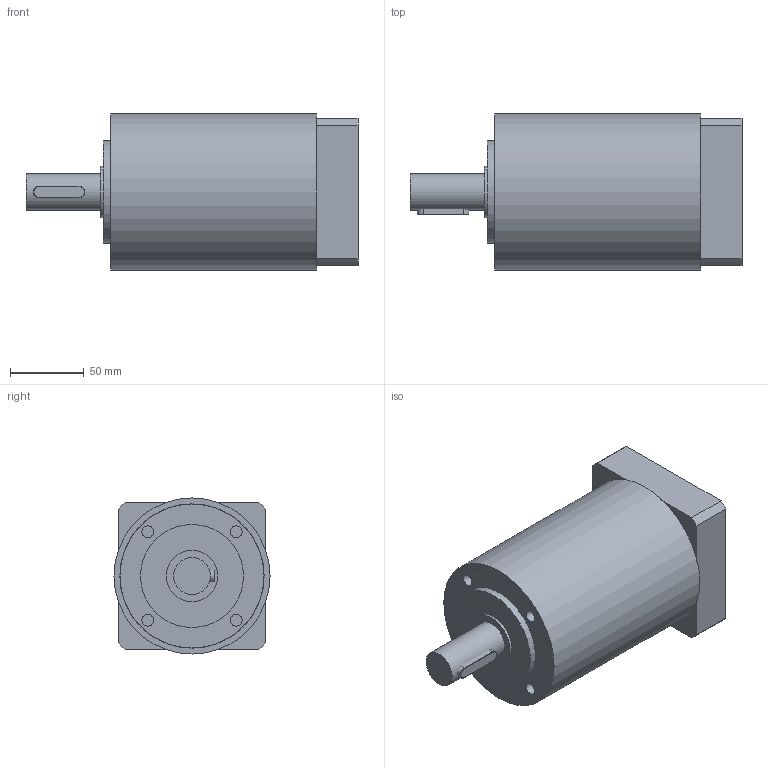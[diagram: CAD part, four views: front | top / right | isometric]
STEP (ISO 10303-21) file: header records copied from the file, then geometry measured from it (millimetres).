
FILE_DESCRIPTION(/* description */ (''),/* implementation_level */ '2;1');
FILE_NAME(/* name */ 'X_MP 105 2 50C1 CD 14 KE.stp',/* time_stamp */ '2019-07-05T12:22:31+02:00',/* author */ (''),/* organization */ (''),/* preprocessor_version */ 'ST-DEVELOPER v16',/* originating_system */ 'SIEMENS PLM Software NX 11.0',/* authorisation */ '');
FILE_SCHEMA (('AP203_CONFIGURATION_CONTROLLED_3D_DESIGN_OF_MECHANICAL_PARTS_AND_ASSEMBLIES_MIM_LF { 1 0 10303 403 2 1 2}'));
Length unit declared in the file: millimetre
Products named in the file (9): 614200772_B-FLANGIA PAM MP-TR105 50-70 H28; 615070001_B-MORSETTO A20 D.14 _ALLUMINIO_; 610009385_A-ALB VEL PER MORSET MP-TR105 D14; 611300793_A-BOCCOLA X CUSC MP-TR105 ENTRATA; 712410014_--LINGUETTA 8X7X35 A TS_00019 T-20; 610004607_A-ALBERO LENTO MP-TR105 I_3 CON LI; 611300820_A-BOCCOLA X CUSC MP-TR105 USCITA S; 612303623_B-CASSA MP-TR105 2 STADI; 064088_01-MP 105 2 - 60A2 - 14 - KE
Assembly tree (8 placements, depth 2):
  064088_01-MP 105 2 - 60A2 - 14 - KE
    612303623_B-CASSA MP-TR105 2 STADI
    611300820_A-BOCCOLA X CUSC MP-TR105 USCITA S
    610004607_A-ALBERO LENTO MP-TR105 I_3 CON LI
    712410014_--LINGUETTA 8X7X35 A TS_00019 T-20
    611300793_A-BOCCOLA X CUSC MP-TR105 ENTRATA
    610009385_A-ALB VEL PER MORSET MP-TR105 D14
    615070001_B-MORSETTO A20 D.14 _ALLUMINIO_
    614200772_B-FLANGIA PAM MP-TR105 50-70 H28
Bounding box: 225.5 x 106 x 106 mm (x, y, z)
Volume: 1560214.3 mm3; surface area: 161433.4 mm2
Topology: 8 solids, 8 shells, 105 faces, 229 edges, 153 vertices
Faces by surface type: plane 46, cylinder 43, cone 16
Full cylindrical faces by diameter (mm): 3.432 x4, 5.188 x1, 6 x4, 6.2 x1, 8 x4, 10.5 x1, 13.75 x1, 14 x1, 19 x1, 25 x2, 35 x3, 47 x1, 50.5 x1, 56 x1, 70 x1, 79 x1, 90 x1, 98 x2, 106 x1
Entity records: 3744 total; most frequent: CARTESIAN_POINT 570, DIRECTION 476, ORIENTED_EDGE 344, AXIS2_PLACEMENT_3D 208, EDGE_LOOP 173, EDGE_CURVE 172, VERTEX_POINT 137, FACE_BOUND 128
